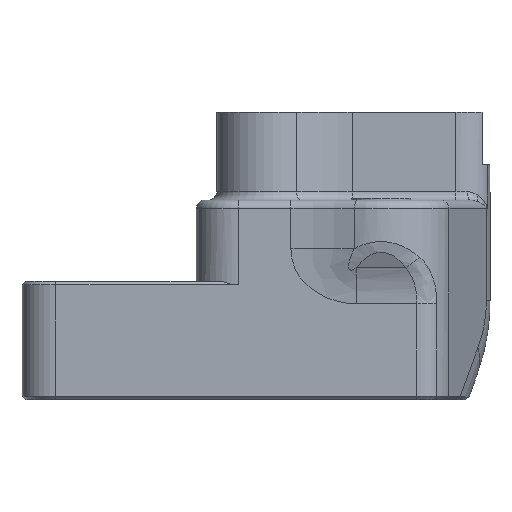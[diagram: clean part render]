
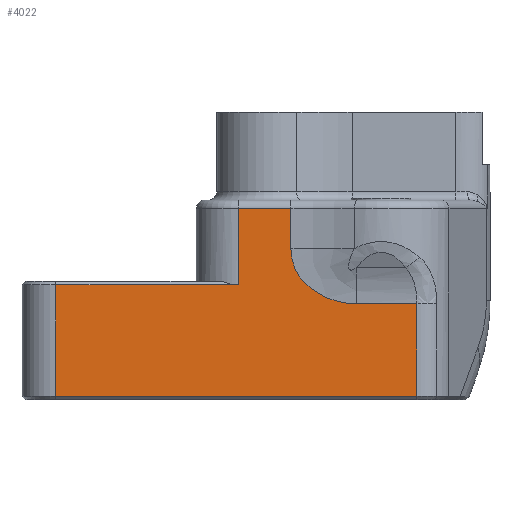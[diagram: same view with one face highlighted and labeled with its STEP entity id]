
A CAD part, front view. The second image highlights one B-rep face of the part: STEP entity #4022.
In plain terms, the highlighted planar face has unit normal (0, -1, 0).
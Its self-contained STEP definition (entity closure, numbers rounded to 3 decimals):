
#159=PLANE('',#4340);
#307=FACE_OUTER_BOUND('',#556,.T.);
#556=EDGE_LOOP('',(#3180,#3181,#3182,#3183,#3184,#3185,#3186,#3187,#3188));
#911=B_SPLINE_CURVE_WITH_KNOTS('',3,(#14101,#14102,#14103,#14104,#14105,
#14106,#14107,#14108,#14109),.UNSPECIFIED.,.F.,.F.,(4,1,1,1,1,1,4),(-1.,
-0.857,-0.571,-0.429,-0.286,
-0.143,0.),.UNSPECIFIED.);
#1170=LINE('',#14087,#1533);
#1171=LINE('',#14090,#1534);
#1173=LINE('',#14095,#1536);
#1174=LINE('',#14097,#1537);
#1175=LINE('',#14099,#1538);
#1176=LINE('',#14111,#1539);
#1177=LINE('',#14113,#1540);
#1178=LINE('',#14114,#1541);
#1533=VECTOR('',#5100,10.);
#1534=VECTOR('',#5105,10.);
#1536=VECTOR('',#5111,10.);
#1537=VECTOR('',#5112,10.);
#1538=VECTOR('',#5113,10.);
#1539=VECTOR('',#5114,10.);
#1540=VECTOR('',#5115,10.);
#1541=VECTOR('',#5116,10.);
#1862=VERTEX_POINT('',#13917);
#1914=VERTEX_POINT('',#14033);
#1936=VERTEX_POINT('',#14086);
#1937=VERTEX_POINT('',#14094);
#1938=VERTEX_POINT('',#14096);
#1939=VERTEX_POINT('',#14098);
#1940=VERTEX_POINT('',#14100);
#1941=VERTEX_POINT('',#14110);
#1942=VERTEX_POINT('',#14112);
#2404=EDGE_CURVE('',#1914,#1936,#1170,.T.);
#2406=EDGE_CURVE('',#1862,#1914,#1171,.T.);
#2408=EDGE_CURVE('',#1937,#1862,#1173,.T.);
#2409=EDGE_CURVE('',#1938,#1937,#1174,.T.);
#2410=EDGE_CURVE('',#1939,#1938,#1175,.T.);
#2411=EDGE_CURVE('',#1940,#1939,#911,.T.);
#2412=EDGE_CURVE('',#1941,#1940,#1176,.T.);
#2413=EDGE_CURVE('',#1942,#1941,#1177,.T.);
#2414=EDGE_CURVE('',#1936,#1942,#1178,.T.);
#3180=ORIENTED_EDGE('',*,*,#2406,.F.);
#3181=ORIENTED_EDGE('',*,*,#2408,.F.);
#3182=ORIENTED_EDGE('',*,*,#2409,.F.);
#3183=ORIENTED_EDGE('',*,*,#2410,.F.);
#3184=ORIENTED_EDGE('',*,*,#2411,.F.);
#3185=ORIENTED_EDGE('',*,*,#2412,.F.);
#3186=ORIENTED_EDGE('',*,*,#2413,.F.);
#3187=ORIENTED_EDGE('',*,*,#2414,.F.);
#3188=ORIENTED_EDGE('',*,*,#2404,.F.);
#4022=ADVANCED_FACE('',(#307),#159,.T.);
#4340=AXIS2_PLACEMENT_3D('',#14093,#5109,#5110);
#5100=DIRECTION('',(1.,0.,0.));
#5105=DIRECTION('',(0.,0.,1.));
#5109=DIRECTION('center_axis',(0.,-1.,0.));
#5110=DIRECTION('ref_axis',(-1.,0.,0.));
#5111=DIRECTION('',(-1.,0.,0.));
#5112=DIRECTION('',(0.,0.,-1.));
#5113=DIRECTION('',(1.,0.,0.));
#5114=DIRECTION('',(0.,0.,-1.));
#5115=DIRECTION('',(1.,0.,0.));
#5116=DIRECTION('',(0.,0.,1.));
#13917=CARTESIAN_POINT('',(-74.3,147.15,44.1));
#14033=CARTESIAN_POINT('',(-74.3,147.15,57.3));
#14086=CARTESIAN_POINT('',(-52.7,147.15,57.3));
#14087=CARTESIAN_POINT('',(-53.911,147.15,57.3));
#14090=CARTESIAN_POINT('',(-74.3,147.15,60.7));
#14093=CARTESIAN_POINT('Origin',(-41.402,147.15,77.7));
#14094=CARTESIAN_POINT('',(-31.629,147.15,44.1));
#14095=CARTESIAN_POINT('',(-38.641,147.15,44.1));
#14096=CARTESIAN_POINT('',(-31.629,147.15,55.083));
#14097=CARTESIAN_POINT('',(-31.629,147.15,77.7));
#14098=CARTESIAN_POINT('',(-38.792,147.15,55.083));
#14099=CARTESIAN_POINT('',(-38.641,147.15,55.083));
#14100=CARTESIAN_POINT('',(-46.524,147.15,61.561));
#14101=CARTESIAN_POINT('Ctrl Pts',(-46.524,147.15,61.561));
#14102=CARTESIAN_POINT('Ctrl Pts',(-46.524,147.15,60.884));
#14103=CARTESIAN_POINT('Ctrl Pts',(-46.178,147.15,59.028));
#14104=CARTESIAN_POINT('Ctrl Pts',(-45.026,147.15,57.538));
#14105=CARTESIAN_POINT('Ctrl Pts',(-43.655,147.15,56.503));
#14106=CARTESIAN_POINT('Ctrl Pts',(-42.377,147.15,55.763));
#14107=CARTESIAN_POINT('Ctrl Pts',(-40.755,147.15,55.185));
#14108=CARTESIAN_POINT('Ctrl Pts',(-39.468,147.15,55.083));
#14109=CARTESIAN_POINT('Ctrl Pts',(-38.792,147.15,55.083));
#14110=CARTESIAN_POINT('',(-46.524,147.15,66.3));
#14111=CARTESIAN_POINT('',(-46.524,147.15,77.7));
#14112=CARTESIAN_POINT('',(-52.7,147.15,66.3));
#14113=CARTESIAN_POINT('',(-38.641,147.15,66.3));
#14114=CARTESIAN_POINT('',(-52.7,147.15,77.7));
